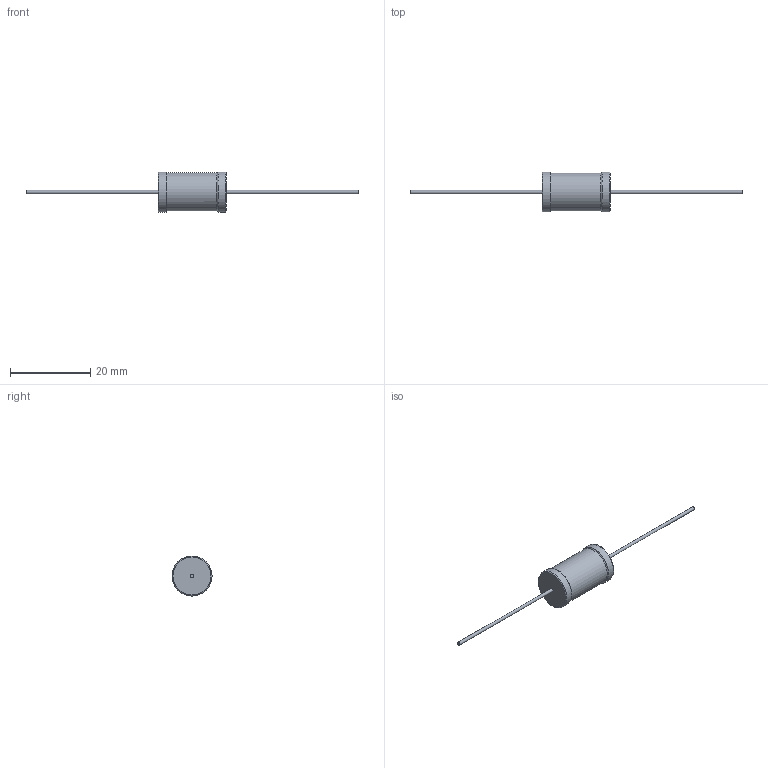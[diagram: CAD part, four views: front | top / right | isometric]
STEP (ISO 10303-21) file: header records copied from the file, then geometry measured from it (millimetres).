
FILE_DESCRIPTION(/* description */ (''),/* implementation_level */ '2;1');
FILE_NAME(/* name */ '\\WSSE03\home\klepschi\Desktop\Elektrowerkstatt - T23 - T21\Inventor - AutoCAD\Joshi Mohit\AC05-CS_l=83mm.stp',/* time_stamp */ '2017-03-29T14:16:04+02:00',/* author */ ('klepschi'),/* organization */ (''),/* preprocessor_version */ 'ST-DEVELOPER v15.6',/* originating_system */ 'Autodesk Inventor 2015',/* authorisation */ '');
FILE_SCHEMA (('AUTOMOTIVE_DESIGN { 1 0 10303 214 3 1 1 }'));
Length unit declared in the file: millimetre
Products named in the file (1): AC05-CS_l=83mm
Bounding box: 83 x 10 x 10 mm (x, y, z)
Volume: 1268.8 mm3; surface area: 838.8 mm2
Topology: 1 solids, 1 shells, 13 faces, 21 edges, 12 vertices
Faces by surface type: cylinder 5, torus 4, plane 4
Full cylindrical faces by diameter (mm): 0.8 x2, 9.5 x1, 10 x2
Entity records: 294 total; most frequent: DIRECTION 52, CARTESIAN_POINT 38, AXIS2_PLACEMENT_3D 26, EDGE_LOOP 24, ORIENTED_EDGE 24, FACE_OUTER_BOUND 13, ADVANCED_FACE 13, CIRCLE 12
